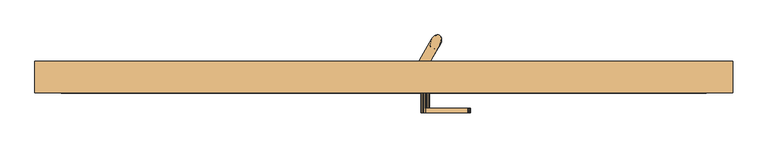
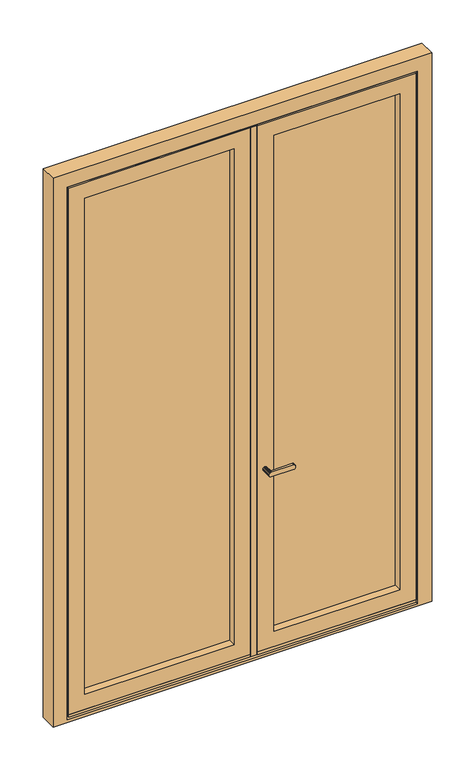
"""IFC4 building model written with IfcOpenShell, lengths in millimetres: door geometry, SAS ENTREE RDC 2x90."""

from ifc_helpers import new_model, si_unit, frame, origin, place, context, project, spatial, polyline, outline, extrude, faceted_brep, source, transform, mapped, element, save


def door_823e616a(model_context):
    return source(origin(), model_context, "Body", "SolidModel", [
        extrude(outline(polyline([(972.0, 551.0), (153.0, 551.0), (153.0, 589.0), (972.0, 589.0), (972.0, 551.0)])), frame((0.0, 0.0, 260.0), z_axis=(0.0, 0.0, 1.0), x_axis=(1.0, 0.0, 0.0)), (0.0, 0.0, 1.0), 2797.0),
        faceted_brep([(1069.5, 518.3, 3138.5), (1069.5, 591.7, 3138.5), (1069.5, 591.7, 178.5), (1069.5, 518.3, 178.5), (1049.0, 591.7, 3159.0), (1049.0, 591.7, 158.0), (1949.0, 591.7, 158.0), (1949.0, 591.7, 3159.0), (1928.5, 591.7, 3138.5), (1928.5, 591.7, 178.5), (1928.5, 518.3, 178.5), (1928.5, 518.3, 3138.5), (1917.0, 518.3, 3127.0), (1917.0, 518.3, 190.0), (1081.0, 518.3, 190.0), (1081.0, 518.3, 3127.0), (1081.0, 510.0, 3127.0), (1081.0, 510.0, 190.0), (1917.0, 510.0, 190.0), (1917.0, 510.0, 3127.0), (1831.9999695, 510.0, 3041.9999695), (1831.9999695, 510.0, 275.0000305), (1166.0000305, 510.0, 275.0000305), (1166.0000305, 510.0, 3041.9999695), (1166.0000305, 551.0, 3041.9999695), (1166.0000305, 551.0, 275.0000305), (1831.9999695, 551.0, 275.0000305), (1847.0, 551.0, 3057.0), (1847.0, 551.0, 260.0), (1151.0, 551.0, 260.0), (1151.0, 551.0, 3057.0), (1831.9999695, 551.0, 3041.9999695), (1151.0, 589.0, 3057.0), (1151.0, 589.0, 260.0), (1847.0, 589.0, 260.0), (1847.0, 589.0, 3057.0), (1830.0, 589.0, 3040.0), (1830.0, 589.0, 277.0), (1168.0, 589.0, 277.0), (1168.0, 589.0, 3040.0), (1168.0, 600.0, 3040.0), (1168.0, 600.0, 277.0), (1830.0, 600.0, 277.0), (1949.0, 600.0, 3159.0), (1949.0, 600.0, 158.0), (1049.0, 600.0, 158.0), (1049.0, 600.0, 3159.0), (1830.0, 600.0, 3040.0)], [[[0, 1, 2, 3]], [[4, 5, 6, 7], [8, 9, 2, 1]], [[3, 2, 9, 10]], [[0, 3, 10, 11], [12, 13, 14, 15]], [[16, 15, 14, 17]], [[17, 14, 13, 18]], [[16, 17, 18, 19], [20, 21, 22, 23]], [[24, 23, 22, 25]], [[25, 22, 21, 26]], [[27, 28, 29, 30], [24, 25, 26, 31]], [[32, 30, 29, 33]], [[33, 29, 28, 34]], [[32, 33, 34, 35], [36, 37, 38, 39]], [[40, 39, 38, 41]], [[41, 38, 37, 42]], [[43, 44, 45, 46], [40, 41, 42, 47]], [[4, 46, 45, 5]], [[5, 45, 44, 6]], [[10, 9, 8, 11]], [[18, 13, 12, 19]], [[26, 21, 20, 31]], [[34, 28, 27, 35]], [[42, 37, 36, 47]], [[6, 44, 43, 7]], [[11, 8, 1, 0]], [[19, 12, 15, 16]], [[31, 20, 23, 24]], [[35, 27, 30, 32]], [[47, 36, 39, 40]], [[7, 43, 46, 4]]]),
        extrude(outline(polyline([(1081.0, 510.0), (1081.0, 518.3), (1917.0, 518.3), (1917.0, 510.0), (1081.0, 510.0)])), frame((0.0, 0.0, 176.0), z_axis=(0.0, 0.0, 1.0), x_axis=(1.0, 0.0, 0.0)), (0.0, 0.0, 1.0), 14.0),
        faceted_brep([(1110.5227579, 510.0, 1208.4772421), (1113.0056846, 510.0, 1210.3824588), (1115.897114, 510.0, 1211.5801281), (1119.0, 510.0, 1211.9886308), (1122.102886, 510.0, 1211.5801281), (1124.9943154, 510.0, 1210.3824588), (1127.4772421, 510.0, 1208.4772421), (1129.3824588, 510.0, 1205.9943154), (1130.5801281, 510.0, 1203.102886), (1130.9886308, 510.0, 1200.0), (1130.5801281, 510.0, 1196.897114), (1129.3824588, 510.0, 1194.0056846), (1127.4772421, 510.0, 1191.5227579), (1124.9943154, 510.0, 1189.6175412), (1122.102886, 510.0, 1188.4198719), (1119.0, 510.0, 1188.0113692), (1115.897114, 510.0, 1188.4198719), (1113.0056846, 510.0, 1189.6175412), (1110.5227579, 510.0, 1191.5227579), (1108.6175412, 510.0, 1194.0056846), (1107.4198719, 510.0, 1196.897114), (1107.0113692, 510.0, 1200.0), (1107.4198719, 510.0, 1203.102886), (1108.6175412, 510.0, 1205.9943154), (1122.102886, 466.5001175, 1188.4198719), (1119.0, 466.5001175, 1188.0113692), (1124.9943154, 466.5001175, 1189.6175412), (1129.3824588, 466.5001175, 1194.0056846), (1127.4772421, 466.5001175, 1191.5227579), (1130.5801281, 466.5001175, 1196.897114), (1130.9886308, 466.5001175, 1200.0), (1130.5801281, 466.5001175, 1203.102886), (1129.3824588, 466.5001175, 1205.9943154), (1124.9943154, 466.5001175, 1210.3824588), (1127.4772421, 466.5001175, 1208.4772421), (1122.102886, 466.5001175, 1211.5801281), (1119.0, 466.5001175, 1211.9886308), (1115.897114, 454.0000305, 1211.5801281), (1119.0, 454.0000305, 1211.9886308), (1113.0056846, 454.0000305, 1210.3824588), (1108.6175412, 454.0000305, 1205.9943154), (1110.5227579, 454.0000305, 1208.4772421), (1107.4198719, 454.0000305, 1203.102886), (1107.0113692, 454.0000305, 1200.0), (1107.4198719, 454.0000305, 1196.897114), (1108.6175412, 454.0000305, 1194.0056846), (1113.0056846, 454.0000305, 1189.6175412), (1110.5227579, 454.0000305, 1191.5227579), (1115.897114, 454.0000305, 1188.4198719), (1119.0, 454.0000305, 1188.0113692), (1240.6617926, 454.0000305, 1188.0113692), (1242.2039971, 454.0000305, 1188.2417274), (1243.6869356, 454.0000305, 1188.9239494), (1245.0536195, 454.0000305, 1190.0318178), (1246.2515279, 454.0000305, 1191.5227579), (1247.234626, 454.0000305, 1193.3394736), (1247.9651338, 454.0000305, 1195.4121496), (1248.4149782, 454.0000305, 1197.6611342), (1248.5668721, 454.0000305, 1200.0), (1248.4149782, 454.0000305, 1202.3388658), (1247.9651338, 454.0000305, 1204.5878504), (1247.234626, 454.0000305, 1206.6605264), (1246.2515279, 454.0000305, 1208.4772421), (1245.0536195, 454.0000305, 1209.9681822), (1243.6869356, 454.0000305, 1211.0760506), (1242.2039971, 454.0000305, 1211.7582726), (1240.6617926, 454.0000305, 1211.9886308), (1247.9651338, 466.5001175, 1195.4121496), (1247.234626, 466.5001175, 1193.3394736), (1246.2515279, 466.5001175, 1191.5227579), (1245.0536195, 466.5001175, 1190.0318178), (1243.6869356, 466.5001175, 1188.9239494), (1242.2039971, 466.5001175, 1188.2417274), (1240.6617926, 466.5001175, 1188.0113692), (1240.6617926, 466.5001175, 1211.9886308), (1242.2039971, 466.5001175, 1211.7582726), (1243.6869356, 466.5001175, 1211.0760506), (1245.0536195, 466.5001175, 1209.9681822), (1246.2515279, 466.5001175, 1208.4772421), (1247.234626, 466.5001175, 1206.6605264), (1247.9651338, 466.5001175, 1204.5878504), (1248.4149782, 466.5001175, 1202.3388658), (1248.5668721, 466.5001175, 1200.0), (1248.4149782, 466.5001175, 1197.6611342), (1240.6617926, 461.0756599, 1188.0113692), (1244.3882212, 460.2500761, 1189.4269715), (1246.7725017, 460.2500743, 1192.3944932), (1248.226482, 460.250074, 1196.5198842), (1247.6334503, 460.250074, 1205.6514014), (1248.528807, 460.2500741, 1201.1750915), (1242.9565161, 460.250074, 1211.4724044), (1245.676722, 460.250074, 1209.2673369), (1240.6617926, 460.250074, 1211.9886308)], [[[0, 1, 2, 3, 4, 5, 6, 7, 8, 9, 10, 11, 12, 13, 14, 15, 16, 17, 18, 19, 20, 21, 22, 23]], [[14, 24, 25, 15]], [[13, 26, 24, 14]], [[27, 28, 12, 11]], [[13, 12, 28, 26]], [[29, 27, 11, 10]], [[30, 29, 10, 9]], [[8, 31, 30, 9]], [[7, 32, 31, 8]], [[33, 34, 6, 5]], [[7, 6, 34, 32]], [[35, 33, 5, 4]], [[36, 35, 4, 3]], [[2, 37, 38, 36, 3]], [[1, 39, 37, 2]], [[23, 40, 41, 0]], [[1, 0, 41, 39]], [[22, 42, 40, 23]], [[21, 43, 42, 22]], [[20, 44, 43, 21]], [[19, 45, 44, 20]], [[17, 46, 47, 18]], [[19, 18, 47, 45]], [[16, 48, 46, 17]], [[25, 49, 48, 16, 15]], [[45, 47, 46, 48, 49, 50, 51, 52, 53, 54, 55, 56, 57, 58, 59, 60, 61, 62, 63, 64, 65, 66, 38, 37, 39, 41, 40, 42, 43, 44]], [[67, 68, 69, 70, 71, 72, 73, 25, 24, 26, 28, 27, 29, 30, 31, 32, 34, 33, 35, 36, 74, 75, 76, 77, 78, 79, 80, 81, 82, 83]], [[49, 25, 73, 84, 50]], [[85, 52, 51]], [[53, 85, 86]], [[67, 87, 68]], [[69, 86, 70]], [[80, 88, 81]], [[72, 85, 84]], [[57, 56, 87]], [[60, 59, 89]], [[86, 87, 56]], [[76, 90, 91, 77]], [[86, 55, 54]], [[79, 78, 91, 88]], [[58, 87, 89]], [[70, 85, 71]], [[84, 73, 72]], [[50, 84, 51]], [[85, 72, 71]], [[58, 57, 87]], [[52, 85, 53]], [[86, 56, 55]], [[86, 54, 53]], [[68, 86, 69]], [[86, 85, 70]], [[74, 92, 75]], [[92, 66, 65]], [[62, 61, 88, 91]], [[87, 86, 68]], [[85, 51, 84]], [[87, 67, 83]], [[91, 90, 64, 63]], [[89, 87, 83]], [[61, 60, 88]], [[89, 88, 60]], [[90, 65, 64]], [[63, 62, 91]], [[89, 83, 82]], [[81, 89, 82]], [[88, 89, 81]], [[79, 88, 80]], [[90, 92, 65]], [[78, 77, 91]], [[75, 90, 76]], [[75, 92, 90]], [[59, 58, 89]], [[38, 66, 92, 74, 36]]]),
        faceted_brep([(1164.2287431, 669.5957857, 3103.5), (1162.3389959, 672.5301259, 3103.5), (1159.7797595, 674.6325784, 3103.5), (1156.6793647, 675.7977178, 3103.5), (1153.1932781, 675.9671188, 3103.5), (1149.4963068, 675.1322872, 3103.5), (1145.7738322, 673.3350848, 3103.5), (1142.212515, 670.6656309, 3103.5), (1138.9909342, 667.257783, 3103.5), (1136.2706335, 663.2824248, 3103.5), (1134.1880202, 658.9388975, 3103.5), (1132.847525, 654.4450036, 3103.5), (1132.3163661, 650.0260857, 3103.5), (1132.6211779, 645.9037268, 3103.5), (1133.7466761, 642.2846393, 3103.5), (1135.6364232, 639.3502991, 3103.5), (1138.1956596, 637.2478466, 3103.5), (1141.2960545, 636.0827073, 3103.5), (1144.7821411, 635.9133062, 3103.5), (1148.4791124, 636.7481378, 3103.5), (1152.2015869, 638.5453402, 3103.5), (1155.7629042, 641.2147941, 3103.5), (1158.9844849, 644.622642, 3103.5), (1161.7047856, 648.5980002, 3103.5), (1163.787399, 652.9415275, 3103.5), (1165.1278941, 657.4354214, 3103.5), (1165.6590531, 661.8543393, 3103.5), (1165.3542412, 665.9766982, 3103.5), (1141.2960545, 636.0827073, 213.5), (1138.1956596, 637.2478466, 213.5), (1135.6364232, 639.3502991, 213.5), (1133.7466761, 642.2846393, 213.5), (1132.6211779, 645.9037268, 213.5), (1132.3163661, 650.0260857, 213.5), (1132.847525, 654.4450036, 213.5), (1134.1880202, 658.9388975, 213.5), (1136.2706335, 663.2824248, 213.5), (1138.9909342, 667.257783, 213.5), (1142.212515, 670.6656309, 213.5), (1145.7738322, 673.3350848, 213.5), (1149.4963068, 675.1322872, 213.5), (1153.1932781, 675.9671188, 213.5), (1156.6793647, 675.7977178, 213.5), (1159.7797595, 674.6325784, 213.5), (1162.3389959, 672.5301259, 213.5), (1164.2287431, 669.5957857, 213.5), (1165.3542412, 665.9766982, 213.5), (1165.6590531, 661.8543393, 213.5), (1165.1278941, 657.4354214, 213.5), (1163.787399, 652.9415275, 213.5), (1161.7047856, 648.5980002, 213.5), (1158.9844849, 644.622642, 213.5), (1155.7629042, 641.2147941, 213.5), (1152.2015869, 638.5453402, 213.5), (1148.4791124, 636.7481378, 213.5), (1144.7821411, 635.9133062, 213.5), (1159.5505327, 674.7609343, 3039.7612202), (1164.8914925, 667.8611962, 306.3237695), (1161.7047856, 648.5980002, 304.783489), (1151.359707, 675.6737836, 3010.676228), (1151.3597056, 675.6737832, 297.4293988), (1158.2880417, 675.3371113, 368.0172447), (1146.3270491, 673.6633417, 369.3240477), (1152.7588212, 675.9198052, 446.6944318), (1161.1357621, 673.6929778, 2948.98274), (1165.6667239, 662.4975723, 2947.6759605), (1164.4102335, 669.1834463, 2875.4794892), (1158.6776836, 675.18144, 2387.972511), (1146.9017358, 673.9813242, 2433.366327), (1158.6178636, 675.2065607, 2478.1094389), (1161.7047856, 648.5980002, 3012.216511), (1136.2706335, 663.2824248, 3012.2165139), (1136.2706335, 663.2824248, 304.7834917), (1148.8898033, 674.90456, 2922.0327645), (1161.7047856, 648.5980002, 396.066978), (1165.4602757, 665.3375828, 394.9672499), (1160.0055327, 674.4982397, 277.2387736), (1149.4561806, 675.1179974, 1435.6433105), (1136.2706335, 663.2824248, 1400.1853585), (1136.2706335, 663.2824248, 1479.816978), (1136.2706335, 663.2824248, 1491.4688445), (1157.9396675, 675.4609039, 526.5775533), (1162.8081191, 671.9617113, 459.8390978), (1147.6664737, 674.3686784, 2789.8337304), (1157.5116475, 675.5941609, 2731.5722903), (1146.7394891, 673.8939051, 2701.4632106), (1164.8914918, 667.8611986, 3019.5705949), (1136.2706335, 663.2824248, 943.7679112), (1147.4014936, 674.2390529, 991.9541054), (1148.151651, 674.5934845, 898.1262183), (1136.2706335, 663.2824248, 2920.9330222), (1136.2706335, 663.2824248, 2746.1339598), (1136.2706335, 663.2824248, 2829.649533), (1136.2706335, 663.2824248, 2833.533491), (1163.4334472, 671.0659174, 753.748835), (1165.6399826, 663.5037097, 806.8427277), (1165.6350242, 661.2518328, 715.5592395), (1160.242194, 674.3485788, 2283.8905959), (1162.5130902, 672.3281065, 2186.2171541), (1148.2373078, 674.6314948, 2242.6546305), (1148.8405944, 674.8849811, 1613.8704529), (1160.8658555, 673.9071638, 1569.1585234), (1149.2516076, 675.0434335, 1517.9321883), (1165.606449, 664.0285127, 2607.3749737), (1159.0807139, 675.0001544, 2567.4509478), (1159.5316125, 674.771178, 2656.7924568), (1160.8920938, 673.8869902, 938.4578574), (1159.7797596, 674.6325784, 1035.0514496), (1165.6658448, 662.2320884, 1881.8538044), (1161.7047856, 648.5980002, 1926.524533), (1161.7047856, 648.5980002, 1852.7188463), (1161.7047856, 648.5980002, 1837.183022), (1148.0919155, 674.5666791, 1085.9473652), (1150.7306536, 675.517869, 1168.8726905), (1160.9683453, 673.8275832, 1125.837811), (1161.0582315, 673.7560369, 1300.8775569), (1165.6579167, 663.0537925, 1256.4632408), (1160.9145992, 673.8695777, 1212.7139165), (1160.8658556, 673.9071638, 1658.5823811), (1160.242194, 674.3485788, 1747.8415416), (1165.6457586, 663.3830403, 1705.6035919), (1165.6667916, 662.4091556, 2149.8783316), (1161.7047856, 648.5980002, 2194.5490659), (1161.7047856, 648.5980002, 2120.7433801), (1161.7047856, 648.5980002, 2105.2075549), (1147.1043514, 674.0879095, 1899.8226875), (1146.892015, 673.9761385, 1808.0481216), (1136.2706335, 663.2824248, 1852.7188452), (1147.4657023, 674.2709086, 2612.1217017), (1165.6635215, 662.8128215, 1527.5583067), (1161.7047856, 648.5980002, 1569.158489), (1161.7047856, 648.5980002, 1491.4688485), (1161.7047856, 648.5980002, 1479.816978), (1159.3249434, 674.879689, 1844.8045559), (1165.6001313, 664.1083165, 1797.4267243), (1146.8951268, 673.9777992, 2522.7801928), (1136.2706335, 663.2824248, 2478.1094254), (1156.643048, 675.8050118, 2868.0801076), (1161.0013131, 673.8015344, 2802.6217509), (1159.9622567, 674.5246154, 1475.3268617), (1136.2706335, 663.2824248, 852.4844195), (1161.7047856, 648.5980002, 1301.133956), (1161.7047856, 648.5980002, 1217.6183797), (1161.7047856, 648.5980002, 1211.7924451), (1147.3907955, 674.2337175, 1718.7066128), (1136.2706335, 663.2824248, 1763.3773338), (1165.6424046, 663.4549077, 2418.8738478), (1165.6411091, 663.481305, 2327.1169999), (1148.6175468, 674.7941617, 1263.2601666), (1136.2706335, 663.2824248, 1217.618375), (1136.2706335, 663.2824248, 1301.133956), (1136.2706335, 663.2824248, 1308.9018668), (1161.7047856, 648.5980002, 2373.2320879), (1136.2706335, 663.2824248, 1582.7523306), (1136.2706335, 663.2824248, 1658.5), (1136.2706335, 663.2824248, 1674.0358223), (1165.6177046, 663.8747832, 1077.7802226), (1165.6548964, 663.1502613, 1167.1147796), (1165.6416963, 663.4694262, 1349.0545448), (1165.5889892, 664.240021, 2510.1573349), (1161.7047856, 648.5980002, 2464.5155769), (1146.0975381, 673.5298181, 2076.0726483), (1147.7553179, 674.4110552, 1991.6458261), (1136.2706335, 663.2824248, 2031.4018682), (1162.2771184, 672.5995764, 682.8588012), (1161.7047856, 648.5980002, 578.633956), (1165.5907742, 664.219614, 532.9922607), (1165.654249, 663.1692553, 621.3637247), (1160.0238637, 674.4869765, 1390.4755053), (1165.5716901, 664.4263296, 1441.7482187), (1165.6141573, 660.907579, 460.8624964), (1161.7047856, 648.5980002, 487.350467), (1146.6692217, 673.8554716, 511.4648929), (1143.0393531, 671.3765494, 453.7451278), (1160.7289495, 674.0102415, 603.806908), (1161.7047856, 648.5980002, 669.9174451), (1159.7797594, 674.6325785, 841.8642654), (1165.6627677, 662.8535427, 898.126215), (1149.6352708, 675.1809238, 659.1547405), (1144.5604194, 672.5368909, 806.8427306), (1146.3650685, 673.6850987, 2856.6324745), (1150.3201144, 675.4012707, 583.1880996), (1136.2706335, 663.2824248, 2656.7924484), (1136.2706335, 663.2824248, 2738.366044), (1165.5793103, 664.3466495, 2699.940621), (1165.3048978, 658.3587256, 2866.1656853), (1165.6644733, 662.7539259, 2807.3986574), (1136.2706335, 663.2824248, 2567.4509369), (1136.2706335, 663.2824248, 2647.0825549), (1136.2706335, 663.2824248, 2388.767914), (1136.2706335, 663.2824248, 2464.5155769), (1147.7487472, 674.4079398, 2334.4675158), (1136.2706335, 663.2824248, 2210.0848911), (1136.2706335, 663.2824248, 2283.8905769), (1136.2706335, 663.2824248, 2299.4264025), (1161.7047856, 648.5980002, 2388.7679138), (1161.7047856, 648.5980002, 2555.7990659), (1161.7047856, 648.5980002, 2478.1094232), (1161.7047856, 648.5980002, 2738.366044), (1161.7047856, 648.5980002, 2656.7924475), (1161.7047856, 648.5980002, 2647.0825549), (1165.6079117, 664.0094265, 2235.3144708), (1161.7047856, 648.5980002, 2283.8905769), (1162.97877, 671.7345832, 2121.0154935), (1136.2706335, 663.2824248, 578.6339556), (1144.315966, 672.3627096, 2165.4141571), (1136.2706335, 663.2824248, 2120.7433796), (1136.2706335, 663.2824248, 2194.5490659), (1164.7270112, 668.3594205, 2060.5368228), (1161.7047856, 648.5980002, 2031.4018707), (1161.7047856, 648.5980002, 2015.866044), (1165.6288113, 663.7039869, 1971.1953135), (1157.0289094, 675.7208451, 2041.9850456), (1136.2706335, 663.2824248, 2555.7990659), (1161.7047856, 648.5980002, 2210.0848951), (1161.7047856, 648.5980002, 2299.4264044), (1161.7047856, 648.5980002, 1033.1094231), (1165.6548734, 663.1509445, 988.4387133), (1161.7047856, 648.5980002, 2567.4509325), (1136.2706335, 663.2824248, 396.0669778), (1161.7047856, 648.5980002, 2829.649533), (1161.7047856, 648.5980002, 2920.933022), (1161.7047856, 648.5980002, 2746.1339569), (1161.7047856, 648.5980002, 761.2009341), (1155.3649733, 675.9831179, 2138.6482318), (1143.791106, 671.9730561, 719.6075288), (1136.2706335, 663.2824248, 669.9174473), (1153.525878, 675.9937381, 754.3114731), (1136.2706335, 663.2824248, 761.2009334), (1161.7047856, 648.5980002, 852.4844231), (1161.7047856, 648.5980002, 943.7679121), (1136.2706335, 663.2824248, 1035.0514029), (1136.2706335, 663.2824248, 1126.334889), (1136.2706335, 663.2824248, 1211.7924451), (1147.2249952, 674.1500152, 1354.5436536), (1136.2706335, 663.2824248, 1390.475467), (1161.7047856, 648.5980002, 1122.4509341), (1161.7047856, 648.5980002, 1035.0514006), (1136.2706335, 663.2824248, 1122.4509341), (1136.2706335, 663.2824248, 1033.1094231), (1161.7047856, 648.5980002, 1126.3348901), (1161.7047856, 648.5980002, 1400.1853589), (1161.7047856, 648.5980002, 1390.475467), (1165.6552285, 663.1403125, 1613.8292772), (1161.7047856, 648.5980002, 1308.9018693), (1161.7047856, 648.5980002, 1658.5), (1161.7047856, 648.5980002, 1582.752338), (1161.7047856, 648.5980002, 1763.377337), (1161.7047856, 648.5980002, 1747.841511), (1136.2706335, 663.2824248, 1569.158489), (1161.7047856, 648.5980002, 1942.0603613), (1136.2706335, 663.2824248, 1747.841511), (1159.3025915, 674.891059, 1942.0603856), (1136.2706335, 663.2824248, 1837.183022), (1136.2706335, 663.2824248, 1942.0603567), (1136.2706335, 663.2824248, 2105.2075549), (1161.7047856, 648.5980002, 1674.0358276), (1136.2706335, 663.2824248, 2015.866044), (1136.2706335, 663.2824248, 1926.524533), (1136.2706335, 663.2824248, 487.3504639), (1136.2706335, 663.2824248, 2373.2320879), (1161.7047856, 648.5980002, 2833.5334917), (1138.4248864, 637.1194907, 3039.7612202), (1133.0839266, 644.0192288, 306.3237695), (1146.6157121, 636.2066414, 3010.676228), (1146.6157136, 636.2066418, 297.4293988), (1139.6873774, 636.5433137, 368.0172447), (1151.64837, 638.2170833, 369.3240477), (1145.2165979, 635.9606198, 446.6944318), (1136.839657, 638.1874472, 2948.98274), (1132.3086953, 649.3828527, 2947.6759605), (1133.5651856, 642.6969787, 2875.4794892), (1139.2977356, 636.698985, 2387.972511), (1151.0736833, 637.8991008, 2433.366327), (1139.3575556, 636.6738643, 2478.1094389), (1149.0856159, 636.975865, 2922.0327645), (1132.5151434, 646.5428422, 394.9672499), (1137.9698864, 637.3821853, 277.2387736), (1148.5192386, 636.7624276, 1435.6433105), (1140.0357516, 636.4195211, 526.5775533), (1135.1673001, 639.9187137, 459.8390978), (1150.3089454, 637.5117466, 2789.8337304), (1140.4637716, 636.2862641, 2731.5722903), (1151.23593, 637.9865199, 2701.4632106), (1133.0839274, 644.0192264, 3019.5705949), (1150.5739256, 637.6413721, 991.9541054), (1149.8237681, 637.2869405, 898.1262183), (1134.5419719, 640.8145076, 753.748835), (1132.3354365, 648.3767153, 806.8427277), (1132.3403949, 650.6285922, 715.5592395), (1137.7332252, 637.5318462, 2283.8905959), (1135.4623289, 639.5523186, 2186.2171541), (1149.7381113, 637.2489302, 2242.6546305), (1149.1348247, 636.9954439, 1613.8704529), (1137.1095636, 637.9732612, 1569.1585234), (1148.7238115, 636.8369915, 1517.9321883), (1132.3689701, 647.8519123, 2607.3749737), (1138.8947052, 636.8802706, 2567.4509478), (1138.4438066, 637.109247, 2656.7924568), (1137.0833253, 637.9934348, 938.4578574), (1138.1956596, 637.2478466, 1035.0514496), (1132.3095744, 649.6483366, 1881.8538044), (1149.8835036, 637.3137459, 1085.9473652), (1147.2447656, 636.362556, 1168.8726905), (1137.0070739, 638.0528418, 1125.837811), (1136.9171876, 638.1243881, 1300.8775569), (1132.3175024, 648.8266325, 1256.4632408), (1137.0608199, 638.0108473, 1212.7139165), (1137.1095635, 637.9732612, 1658.5823811), (1137.7332251, 637.5318462, 1747.8415416), (1132.3296605, 648.4973847, 1705.6035919), (1132.3086276, 649.4712695, 2149.8783316), (1150.8710677, 637.7925155, 1899.8226875), (1151.0834041, 637.9042865, 1808.0481216), (1150.5097169, 637.6095164, 2612.1217017), (1132.3118976, 649.0676035, 1527.5583067), (1138.6504758, 637.000736, 1844.8045559), (1132.3752878, 647.7721085, 1797.4267243), (1151.0802924, 637.9026258, 2522.7801928), (1141.3323712, 636.0754132, 2868.0801076), (1136.9741061, 638.0788906, 2802.6217509), (1138.0131624, 637.3558096, 1475.3268617), (1150.5846237, 637.6467075, 1718.7066128), (1132.3330145, 648.4255173, 2418.8738478), (1132.3343101, 648.39912, 2327.1169999), (1149.3578723, 637.0862633, 1263.2601666), (1132.3577146, 648.0056418, 1077.7802226), (1132.3205228, 648.7301637, 1167.1147796), (1132.3337228, 648.4109988, 1349.0545448), (1132.38643, 647.640404, 2510.1573349), (1151.8778811, 638.3506069, 2076.0726483), (1150.2201012, 637.4693698, 1991.6458261), (1135.6983007, 639.2808486, 682.8588012), (1132.3846449, 647.660811, 532.9922607), (1132.3211702, 648.7111697, 621.3637247), (1137.9515554, 637.3934485, 1390.4755053), (1132.4037291, 647.4540954, 1441.7482187), (1132.3612619, 650.972846, 460.8624964), (1151.3061975, 638.0249534, 511.4648929), (1154.936066, 640.5038756, 453.7451278), (1137.2464696, 637.8701835, 603.806908), (1138.1956597, 637.2478465, 841.8642654), (1132.3126514, 649.0268823, 898.126215), (1148.3401483, 636.6995012, 659.1547405), (1153.4149997, 639.3435341, 806.8427306), (1151.6103506, 638.1953263, 2856.6324745), (1147.6553047, 636.4791543, 583.1880996), (1132.3961088, 647.5337755, 2699.940621), (1132.6705214, 653.5216994, 2866.1656853), (1132.3109458, 649.1264991, 2807.3986574), (1150.2266719, 637.4724852, 2334.4675158), (1132.3675074, 647.8709985, 2235.3144708), (1134.9966491, 640.1458418, 2121.0154935), (1153.6594532, 639.5177154, 2165.4141571), (1133.2484079, 643.5210045, 2060.5368228), (1132.3466078, 648.1764381, 1971.1953135), (1140.9465097, 636.1595799, 2041.9850456), (1132.3205458, 648.7294805, 988.4387133), (1142.6104458, 635.8973071, 2138.6482318), (1154.1843131, 639.9073689, 719.6075288), (1144.4495412, 635.8866869, 754.3114731), (1150.750424, 637.7304098, 1354.5436536), (1132.3201906, 648.7401125, 1613.8292772), (1138.6728277, 636.989366, 1942.0603856)], [[[0, 1, 2, 3, 4, 5, 6, 7, 8, 9, 10, 11, 12, 13, 14, 15, 16, 17, 18, 19, 20, 21, 22, 23, 24, 25, 26, 27]], [[28, 29, 30, 31, 32, 33, 34, 35, 36, 37, 38, 39, 40, 41, 42, 43, 44, 45, 46, 47, 48, 49, 50, 51, 52, 53, 54, 55]], [[2, 1, 56]], [[57, 58, 48]], [[59, 7, 6]], [[5, 4, 59]], [[38, 60, 39]], [[61, 62, 63]], [[4, 3, 56]], [[64, 65, 66]], [[40, 60, 41]], [[67, 68, 69]], [[24, 23, 70]], [[58, 50, 49]], [[71, 9, 8]], [[37, 36, 72]], [[73, 59, 64]], [[60, 40, 39]], [[74, 58, 75]], [[45, 76, 57]], [[77, 78, 79, 80]], [[71, 8, 7]], [[63, 81, 82]], [[83, 84, 85]], [[25, 86, 26]], [[24, 70, 25]], [[87, 88, 89]], [[75, 58, 57]], [[72, 62, 60]], [[5, 59, 6]], [[90, 71, 73]], [[70, 65, 86]], [[42, 41, 76]], [[46, 57, 47]], [[83, 91, 92, 93]], [[94, 95, 96]], [[43, 42, 76]], [[97, 98, 99]], [[86, 27, 26]], [[100, 101, 102]], [[4, 56, 59]], [[64, 56, 86]], [[103, 104, 105]], [[46, 45, 57]], [[58, 49, 48]], [[76, 41, 60]], [[59, 71, 7]], [[45, 44, 76]], [[56, 1, 0]], [[75, 57, 61]], [[61, 76, 60]], [[27, 86, 0]], [[47, 57, 48]], [[37, 72, 38]], [[106, 88, 107]], [[0, 86, 56]], [[38, 72, 60]], [[73, 71, 59]], [[64, 86, 65]], [[61, 60, 62]], [[25, 70, 86]], [[108, 109, 110, 111]], [[112, 113, 114]], [[115, 116, 117]], [[118, 119, 120]], [[121, 122, 123, 124]], [[125, 126, 127]], [[105, 104, 128]], [[129, 130, 131, 132]], [[133, 134, 119]], [[135, 68, 136]], [[137, 66, 138]], [[139, 101, 129]], [[89, 140, 87]], [[116, 141, 142, 143]], [[126, 144, 145]], [[146, 147, 67]], [[148, 149, 150, 151]], [[152, 147, 146]], [[134, 120, 119]], [[100, 153, 154, 155]], [[156, 114, 157]], [[116, 115, 158]], [[146, 159, 160]], [[161, 162, 163]], [[96, 164, 94]], [[165, 166, 167]], [[68, 135, 69]], [[104, 103, 159]], [[100, 144, 118]], [[168, 169, 158]], [[170, 171, 74]], [[172, 63, 173]], [[165, 171, 166]], [[167, 166, 174]], [[175, 167, 96]], [[166, 170, 82]], [[82, 81, 166]], [[176, 177, 95]], [[178, 164, 174]], [[176, 179, 89]], [[180, 93, 90]], [[181, 178, 174]], [[85, 182, 183, 91]], [[105, 184, 103]], [[66, 185, 186]], [[91, 83, 85]], [[180, 137, 83]], [[137, 138, 83]], [[187, 128, 135]], [[128, 187, 188, 182]], [[85, 84, 105]], [[85, 128, 182]], [[128, 85, 105]], [[68, 189, 190, 136]], [[69, 135, 104]], [[189, 68, 191]], [[67, 191, 68]], [[99, 192, 193, 194]], [[191, 99, 194]], [[67, 97, 191]], [[146, 160, 195, 152]], [[103, 196, 159]], [[159, 196, 197, 160]], [[67, 69, 146]], [[184, 198, 199, 200]], [[103, 184, 200]], [[159, 146, 69]], [[97, 67, 147]], [[97, 147, 201]], [[147, 202, 201]], [[97, 99, 191]], [[121, 203, 98]], [[181, 204, 178]], [[205, 206, 207, 192]], [[208, 124, 209, 210]], [[122, 121, 201]], [[208, 211, 212]], [[135, 136, 213, 187]], [[128, 104, 135]], [[159, 69, 104]], [[201, 202, 214, 122]], [[147, 152, 215, 202]], [[201, 121, 98]], [[216, 217, 156]], [[157, 116, 143]], [[121, 124, 208]], [[73, 64, 137]], [[138, 184, 84]], [[103, 200, 218, 196]], [[172, 81, 63]], [[219, 62, 72]], [[75, 61, 82]], [[62, 173, 63]], [[172, 181, 81]], [[186, 185, 220]], [[221, 65, 70]], [[198, 184, 186]], [[65, 185, 66]], [[186, 138, 66]], [[138, 186, 184]], [[186, 220, 222, 198]], [[96, 223, 175]], [[164, 167, 174]], [[175, 165, 167]], [[192, 99, 205]], [[224, 99, 98]], [[63, 82, 61]], [[170, 75, 82]], [[225, 178, 226]], [[81, 174, 166]], [[178, 227, 164]], [[174, 81, 181]], [[226, 178, 204]], [[140, 179, 228]], [[227, 178, 225]], [[176, 89, 106]], [[225, 228, 179]], [[88, 106, 89]], [[229, 223, 95]], [[216, 230, 217]], [[177, 229, 95]], [[229, 177, 230]], [[94, 227, 176]], [[107, 88, 112]], [[88, 231, 112]], [[107, 112, 114]], [[113, 232, 233, 149]], [[117, 148, 115]], [[232, 113, 112]], [[234, 151, 235, 78]], [[236, 156, 157]], [[156, 236, 237, 216]], [[106, 107, 217]], [[156, 217, 107]], [[106, 217, 177]], [[230, 177, 217]], [[176, 106, 177]], [[112, 231, 238, 232]], [[88, 87, 239, 231]], [[117, 157, 114]], [[157, 143, 240, 236]], [[158, 141, 116]], [[117, 116, 157]], [[169, 132, 241, 242]], [[158, 169, 242]], [[129, 243, 130]], [[102, 101, 139]], [[115, 168, 158]], [[234, 168, 115]], [[113, 117, 114]], [[114, 156, 107]], [[158, 242, 244, 141]], [[245, 243, 120]], [[243, 245, 246, 130]], [[243, 101, 118]], [[134, 111, 247, 248]], [[120, 134, 248]], [[243, 118, 120]], [[101, 100, 118]], [[144, 119, 118]], [[100, 102, 153]], [[102, 80, 249, 153]], [[211, 210, 250, 109]], [[111, 134, 108]], [[133, 108, 134]], [[126, 125, 133]], [[144, 155, 251, 145]], [[210, 211, 208]], [[133, 252, 108]], [[126, 145, 253, 127]], [[155, 144, 100]], [[133, 119, 126]], [[151, 234, 148]], [[168, 139, 169]], [[78, 77, 234]], [[144, 126, 119]], [[252, 133, 125]], [[252, 125, 162]], [[125, 254, 162]], [[148, 234, 115]], [[77, 139, 168]], [[212, 211, 252]], [[161, 163, 255, 206]], [[113, 148, 117]], [[148, 113, 149]], [[243, 129, 101]], [[169, 129, 132]], [[120, 248, 256, 245]], [[162, 254, 257, 163]], [[125, 127, 258, 254]], [[259, 204, 172]], [[181, 172, 204]], [[259, 172, 173]], [[108, 211, 109]], [[252, 211, 108]], [[161, 224, 212]], [[162, 161, 212]], [[224, 161, 205]], [[162, 212, 252]], [[203, 208, 212]], [[129, 169, 139]], [[102, 139, 77]], [[80, 102, 77]], [[234, 77, 168]], [[191, 194, 260, 189]], [[66, 137, 64]], [[180, 73, 137]], [[73, 180, 90]], [[180, 83, 93]], [[223, 96, 95]], [[164, 96, 167]], [[75, 170, 74]], [[171, 170, 166]], [[95, 94, 176]], [[94, 164, 227]], [[201, 98, 97]], [[224, 98, 203]], [[224, 203, 212]], [[208, 203, 121]], [[227, 179, 176]], [[179, 140, 89]], [[206, 205, 161]], [[224, 205, 99]], [[173, 219, 259]], [[219, 173, 62]], [[185, 221, 261, 220]], [[221, 185, 65]], [[43, 76, 44]], [[57, 76, 61]], [[2, 56, 3]], [[59, 56, 64]], [[105, 84, 184]], [[138, 84, 83]], [[227, 225, 179]], [[228, 225, 226]], [[16, 15, 262]], [[263, 72, 34]], [[264, 21, 20]], [[19, 18, 264]], [[52, 265, 53]], [[266, 267, 268]], [[18, 17, 262]], [[269, 270, 271]], [[54, 265, 55]], [[272, 273, 274]], [[10, 9, 71]], [[72, 36, 35]], [[70, 23, 22]], [[51, 50, 58]], [[275, 264, 269]], [[265, 54, 53]], [[219, 72, 276]], [[31, 277, 263]], [[278, 241, 132, 131]], [[70, 22, 21]], [[268, 279, 280]], [[281, 282, 283]], [[11, 284, 12]], [[10, 71, 11]], [[230, 285, 286]], [[276, 72, 263]], [[58, 267, 265]], [[19, 264, 20]], [[221, 70, 275]], [[71, 270, 284]], [[28, 55, 277]], [[32, 263, 33]], [[281, 222, 220, 261]], [[287, 288, 289]], [[29, 28, 277]], [[290, 291, 292]], [[284, 13, 12]], [[293, 294, 295]], [[18, 262, 264]], [[269, 262, 284]], [[296, 297, 298]], [[32, 31, 263]], [[72, 35, 34]], [[277, 55, 265]], [[264, 70, 21]], [[31, 30, 277]], [[262, 15, 14]], [[276, 263, 266]], [[266, 277, 265]], [[13, 284, 14]], [[33, 263, 34]], [[51, 58, 52]], [[299, 285, 300]], [[14, 284, 262]], [[52, 58, 265]], [[275, 70, 264]], [[269, 284, 270]], [[266, 265, 267]], [[11, 71, 284]], [[301, 258, 127, 253]], [[302, 303, 304]], [[305, 306, 307]], [[308, 309, 310]], [[311, 207, 206, 255]], [[312, 313, 110]], [[298, 297, 314]], [[315, 249, 80, 79]], [[316, 317, 309]], [[318, 273, 197]], [[319, 271, 320]], [[321, 294, 315]], [[286, 229, 230]], [[306, 150, 149, 233]], [[313, 322, 247]], [[323, 324, 272]], [[325, 142, 141, 244]], [[260, 324, 323]], [[317, 310, 309]], [[293, 246, 245, 256]], [[326, 304, 327]], [[306, 305, 328]], [[323, 329, 190]], [[330, 331, 209]], [[289, 332, 287]], [[204, 333, 334]], [[273, 318, 274]], [[297, 296, 329]], [[293, 322, 308]], [[335, 336, 328]], [[337, 259, 219]], [[338, 268, 339]], [[204, 259, 333]], [[334, 333, 340]], [[226, 334, 289]], [[333, 337, 280]], [[280, 279, 333]], [[341, 342, 288]], [[343, 332, 340]], [[341, 344, 286]], [[345, 261, 221]], [[346, 343, 340]], [[283, 199, 198, 222]], [[298, 347, 296]], [[271, 348, 349]], [[222, 281, 283]], [[345, 319, 281]], [[319, 320, 281]], [[218, 314, 318]], [[314, 218, 200, 199]], [[283, 282, 298]], [[283, 314, 199]], [[314, 283, 298]], [[273, 195, 160, 197]], [[274, 318, 297]], [[195, 273, 350]], [[272, 350, 273]], [[292, 214, 202, 215]], [[350, 292, 215]], [[272, 290, 350]], [[323, 190, 189, 260]], [[296, 213, 329]], [[329, 213, 136, 190]], [[272, 274, 323]], [[347, 183, 182, 188]], [[296, 347, 188]], [[329, 323, 274]], [[290, 272, 324]], [[290, 324, 351]], [[324, 193, 351]], [[290, 292, 350]], [[311, 352, 291]], [[346, 165, 343]], [[353, 123, 122, 214]], [[354, 255, 163, 257]], [[207, 311, 351]], [[354, 355, 356]], [[318, 197, 196, 218]], [[314, 297, 318]], [[329, 274, 297]], [[351, 193, 192, 207]], [[324, 260, 194, 193]], [[351, 311, 291]], [[239, 357, 326]], [[327, 306, 233]], [[311, 255, 354]], [[275, 269, 319]], [[320, 347, 282]], [[296, 188, 187, 213]], [[338, 279, 268]], [[74, 267, 58]], [[276, 266, 280]], [[267, 339, 268]], [[338, 346, 279]], [[349, 348, 92]], [[90, 270, 71]], [[183, 347, 349]], [[270, 348, 271]], [[349, 320, 271]], [[320, 349, 347]], [[349, 92, 91, 183]], [[289, 228, 226]], [[332, 334, 340]], [[226, 204, 334]], [[214, 292, 353]], [[358, 292, 291]], [[268, 280, 266]], [[337, 276, 280]], [[359, 343, 175]], [[279, 340, 333]], [[343, 360, 332]], [[340, 279, 346]], [[175, 343, 165]], [[229, 344, 223]], [[360, 343, 359]], [[341, 286, 299]], [[359, 223, 344]], [[285, 299, 286]], [[140, 228, 288]], [[239, 87, 357]], [[342, 140, 288]], [[140, 342, 87]], [[287, 360, 341]], [[300, 285, 302]], [[285, 237, 302]], [[300, 302, 304]], [[303, 240, 143, 142]], [[307, 325, 305]], [[240, 303, 302]], [[361, 244, 242, 241]], [[238, 326, 327]], [[326, 238, 231, 239]], [[299, 300, 357]], [[326, 357, 300]], [[299, 357, 342]], [[87, 342, 357]], [[341, 299, 342]], [[302, 237, 236, 240]], [[285, 230, 216, 237]], [[307, 327, 304]], [[327, 233, 232, 238]], [[328, 150, 306]], [[307, 306, 327]], [[336, 79, 78, 235]], [[328, 336, 235]], [[315, 362, 249]], [[295, 294, 321]], [[305, 335, 328]], [[361, 335, 305]], [[303, 307, 304]], [[304, 326, 300]], [[328, 235, 151, 150]], [[154, 362, 310]], [[362, 154, 153, 249]], [[362, 294, 308]], [[317, 253, 145, 251]], [[310, 317, 251]], [[362, 308, 310]], [[294, 293, 308]], [[322, 309, 308]], [[293, 295, 246]], [[295, 131, 130, 246]], [[355, 257, 254, 258]], [[253, 317, 301]], [[316, 301, 317]], [[313, 312, 316]], [[322, 256, 248, 247]], [[257, 355, 354]], [[316, 363, 301]], [[313, 247, 111, 110]], [[256, 322, 293]], [[316, 309, 313]], [[244, 361, 325]], [[335, 321, 336]], [[241, 278, 361]], [[322, 313, 309]], [[363, 316, 312]], [[363, 312, 331]], [[312, 250, 331]], [[325, 361, 305]], [[278, 321, 335]], [[356, 355, 363]], [[330, 209, 124, 123]], [[303, 325, 307]], [[325, 303, 142]], [[362, 315, 294]], [[336, 315, 79]], [[310, 251, 155, 154]], [[331, 250, 210, 209]], [[312, 110, 109, 250]], [[171, 165, 338]], [[346, 338, 165]], [[171, 338, 339]], [[301, 355, 258]], [[363, 355, 301]], [[330, 358, 356]], [[331, 330, 356]], [[358, 330, 353]], [[331, 356, 363]], [[352, 354, 356]], [[315, 336, 321]], [[295, 321, 278]], [[131, 295, 278]], [[361, 278, 335]], [[350, 215, 152, 195]], [[271, 319, 269]], [[345, 275, 319]], [[275, 345, 221]], [[345, 281, 261]], [[228, 289, 288]], [[332, 289, 334]], [[276, 337, 219]], [[259, 337, 333]], [[288, 287, 341]], [[287, 332, 360]], [[351, 291, 290]], [[358, 291, 352]], [[358, 352, 356]], [[354, 352, 311]], [[360, 344, 341]], [[344, 229, 286]], [[123, 353, 330]], [[358, 353, 292]], [[339, 74, 171]], [[74, 339, 267]], [[348, 90, 93, 92]], [[90, 348, 270]], [[29, 277, 30]], [[263, 277, 266]], [[16, 262, 17]], [[264, 262, 269]], [[298, 282, 347]], [[320, 282, 281]], [[360, 359, 344]], [[223, 359, 175]]]),
        faceted_brep([(1135.9561005, 600.0, 243.5), (1135.9561005, 604.0, 243.5), (1102.0438995, 604.0, 243.5), (1102.0438995, 600.0, 243.5), (1135.9561005, 604.0, 213.5), (1102.0438995, 604.0, 213.5), (1135.9561005, 600.0, 209.5), (1135.9561005, 604.0, 209.5), (1102.0438995, 600.0, 209.5), (1102.0438995, 604.0, 209.5), (1162.3389949, 672.5301271, 213.5), (1159.7797579, 674.6325794, 213.5), (1156.6793625, 675.7977182, 213.5), (1153.1932755, 675.9671186, 213.5), (1149.4963038, 675.1322861, 213.5), (1145.773829, 673.3350828, 213.5), (1142.2125117, 670.6656279, 213.5), (1138.9909311, 667.2577791, 213.5), (1136.2706308, 663.2824201, 213.5), (1161.7047856, 648.5980002, 213.5), (1163.7873991, 652.9415279, 213.5), (1165.1278943, 657.4354221, 213.5), (1165.6590531, 661.8543403, 213.5), (1165.354241, 665.9766994, 213.5), (1164.2287425, 669.5957871, 213.5), (1136.2706308, 663.2824201, 209.5), (1138.9909311, 667.2577791, 209.5), (1142.2125117, 670.6656279, 209.5), (1145.773829, 673.3350828, 209.5), (1149.4963038, 675.1322861, 209.5), (1153.1932755, 675.9671186, 209.5), (1156.6793625, 675.7977182, 209.5), (1159.7797579, 674.6325794, 209.5), (1162.3389949, 672.5301271, 209.5), (1164.2287425, 669.5957871, 209.5), (1165.354241, 665.9766994, 209.5), (1165.6590531, 661.8543403, 209.5), (1165.1278943, 657.4354221, 209.5), (1163.7873991, 652.9415279, 209.5), (1161.7047856, 648.5980002, 209.5), (1136.2706308, 663.2824201, 211.9099144), (1161.7047856, 648.5980002, 211.0900853), (1163.3743289, 671.1586471, 211.5), (1151.3597053, 675.6737832, 211.5), (1165.6445577, 661.4468941, 211.5)], [[[0, 1, 2, 3]], [[4, 5, 2, 1]], [[6, 7, 4, 1, 0]], [[8, 6, 0, 3]], [[9, 8, 3, 2, 5]], [[10, 11, 12, 13, 14, 15, 16, 17, 18, 5, 4, 19, 20, 21, 22, 23, 24]], [[6, 8, 9, 25, 26, 27, 28, 29, 30, 31, 32, 33, 34, 35, 36, 37, 38, 39, 7]], [[9, 5, 18, 40, 25]], [[7, 39, 41, 19, 4]], [[40, 18, 17]], [[26, 25, 40]], [[24, 42, 10]], [[43, 27, 40]], [[40, 27, 26]], [[43, 30, 29]], [[15, 43, 16]], [[13, 43, 14]], [[32, 31, 43]], [[41, 39, 38]], [[20, 19, 41]], [[28, 43, 29]], [[17, 16, 40]], [[31, 30, 43]], [[35, 34, 42]], [[28, 27, 43]], [[20, 41, 44]], [[15, 14, 43]], [[13, 12, 43]], [[40, 16, 43]], [[11, 43, 12]], [[32, 43, 42]], [[34, 33, 42]], [[35, 44, 36]], [[38, 37, 41]], [[37, 44, 41]], [[36, 44, 37]], [[44, 21, 20]], [[42, 43, 11]], [[32, 42, 33]], [[42, 11, 10]], [[23, 42, 24]], [[44, 42, 23]], [[35, 42, 44]], [[23, 22, 44]], [[22, 21, 44]]]),
        faceted_brep([(168.0000305, 551.0, 3041.9999695), (168.0000305, 510.0, 3041.9999695), (168.0000305, 510.0, 275.0000305), (168.0000305, 551.0, 275.0000305), (83.0, 510.0, 3127.0), (83.0, 510.0, 190.0), (1042.0, 510.0, 190.0), (1042.0, 510.0, 3127.0), (956.9999695, 510.0, 3041.9999695), (956.9999695, 510.0, 275.0000305), (956.9999695, 551.0, 275.0000305), (153.0, 551.0, 260.0), (153.0, 551.0, 3057.0), (972.0, 551.0, 3057.0), (972.0, 551.0, 260.0), (956.9999695, 551.0, 3041.9999695), (153.0, 589.0, 3057.0), (153.0, 589.0, 260.0), (972.0, 589.0, 260.0), (972.0, 589.0, 3057.0), (170.0, 589.0, 277.0), (170.0, 589.0, 3040.0), (955.0, 589.0, 3040.0), (955.0, 589.0, 277.0), (170.0, 600.0, 3040.0), (170.0, 600.0, 277.0), (955.0, 600.0, 277.0), (51.0, 600.0, 158.0), (51.0, 600.0, 3159.0), (1042.0, 600.0, 3159.0), (1042.0, 600.0, 158.0), (955.0, 600.0, 3040.0), (51.0, 591.7, 3159.0), (51.0, 591.7, 158.0), (1042.0, 591.7, 158.0), (1042.0, 591.7, 178.5), (71.5, 591.7, 178.5), (71.5, 591.7, 3138.5), (1042.0, 591.7, 3138.5), (1042.0, 591.7, 3159.0), (71.5, 518.3, 3138.5), (71.5, 518.3, 178.5), (1053.5, 591.7, 178.5), (1053.5, 518.3, 178.5), (1053.5, 518.3, 3138.5), (83.0, 518.3, 190.0), (83.0, 518.3, 3127.0), (1042.0, 518.3, 3127.0), (1042.0, 518.3, 190.0), (1053.5, 591.7, 3138.5)], [[[0, 1, 2, 3]], [[4, 5, 6, 7], [2, 1, 8, 9]], [[3, 2, 9, 10]], [[11, 12, 13, 14], [0, 3, 10, 15]], [[16, 12, 11, 17]], [[17, 11, 14, 18]], [[16, 17, 18, 19], [20, 21, 22, 23]], [[24, 21, 20, 25]], [[25, 20, 23, 26]], [[27, 28, 29, 30], [24, 25, 26, 31]], [[32, 28, 27, 33]], [[33, 27, 30, 34]], [[32, 33, 34, 35, 36, 37, 38, 39]], [[40, 37, 36, 41]], [[41, 36, 35, 42, 43]], [[40, 41, 43, 44], [45, 46, 47, 48]], [[4, 46, 45, 5]], [[5, 45, 48, 6]], [[10, 9, 8, 15]], [[18, 14, 13, 19]], [[26, 23, 22, 31]], [[43, 42, 49, 44]], [[1, 0, 15, 8]], [[12, 16, 19, 13]], [[21, 24, 31, 22]], [[28, 32, 39, 29]], [[37, 40, 44, 49, 38]], [[46, 4, 7, 47]], [[38, 35, 34, 30, 29, 39]], [[35, 38, 49, 42]], [[6, 48, 47, 7]]]),
        faceted_brep([(1102.0438995, 600.0, 3073.5), (1102.0438995, 604.0, 3073.5), (1135.9561005, 604.0, 3073.5), (1135.9561005, 600.0, 3073.5), (1102.0438995, 604.0, 3103.5), (1135.9561005, 604.0, 3103.5), (1135.9561005, 604.0, 3107.5), (1135.9561005, 600.0, 3107.5), (1102.0438995, 600.0, 3107.5), (1102.0438995, 604.0, 3107.5), (1136.2706335, 663.2824248, 3103.5), (1138.9909342, 667.257783, 3103.5), (1142.212515, 670.6656309, 3103.5), (1145.7738322, 673.3350848, 3103.5), (1149.4963068, 675.1322872, 3103.5), (1153.1932781, 675.9671188, 3103.5), (1156.6793647, 675.7977178, 3103.5), (1159.7797595, 674.6325784, 3103.5), (1162.3389959, 672.5301259, 3103.5), (1164.2287431, 669.5957857, 3103.5), (1165.3542412, 665.9766982, 3103.5), (1165.6590531, 661.8543393, 3103.5), (1165.1278941, 657.4354214, 3103.5), (1163.787399, 652.9415275, 3103.5), (1161.7047856, 648.5980002, 3103.5), (1162.3389959, 672.5301259, 3107.5), (1159.7797595, 674.6325784, 3107.5), (1156.6793647, 675.7977178, 3107.5), (1153.1932781, 675.9671188, 3107.5), (1149.4963068, 675.1322872, 3107.5), (1145.7738322, 673.3350848, 3107.5), (1142.212515, 670.6656309, 3107.5), (1138.9909342, 667.257783, 3107.5), (1136.2706335, 663.2824248, 3107.5), (1161.7047856, 648.5980002, 3107.5), (1163.787399, 652.9415275, 3107.5), (1165.1278941, 657.4354214, 3107.5), (1165.6590531, 661.8543393, 3107.5), (1165.3542412, 665.9766982, 3107.5), (1164.2287431, 669.5957857, 3107.5), (1136.2706335, 663.2824248, 3105.9099144), (1161.7047856, 648.5980002, 3105.0900854), (1163.3743297, 671.1586458, 3105.5), (1151.3597081, 675.6737838, 3105.5), (1165.6445577, 661.4468931, 3105.5)], [[[0, 1, 2, 3]], [[2, 1, 4, 5]], [[3, 2, 5, 6, 7]], [[0, 3, 7, 8]], [[1, 0, 8, 9, 4]], [[5, 4, 10, 11, 12, 13, 14, 15, 16, 17, 18, 19, 20, 21, 22, 23, 24]], [[25, 26, 27, 28, 29, 30, 31, 32, 33, 9, 8, 7, 6, 34, 35, 36, 37, 38, 39]], [[4, 9, 33, 40, 10]], [[5, 24, 41, 34, 6]], [[40, 33, 32]], [[11, 10, 40]], [[39, 42, 25]], [[43, 12, 40]], [[40, 12, 11]], [[43, 15, 14]], [[30, 43, 31]], [[28, 43, 29]], [[17, 16, 43]], [[41, 24, 23]], [[35, 34, 41]], [[13, 43, 14]], [[32, 31, 40]], [[16, 15, 43]], [[20, 19, 42]], [[13, 12, 43]], [[35, 41, 44]], [[30, 29, 43]], [[28, 27, 43]], [[40, 31, 43]], [[26, 43, 27]], [[17, 43, 42]], [[19, 18, 42]], [[20, 44, 21]], [[23, 22, 41]], [[22, 44, 41]], [[21, 44, 22]], [[44, 36, 35]], [[42, 43, 26]], [[17, 42, 18]], [[42, 26, 25]], [[38, 42, 39]], [[44, 42, 38]], [[20, 42, 44]], [[38, 37, 44]], [[37, 36, 44]]]),
        extrude(outline(polyline([(1151.0, 589.0), (1847.0, 589.0), (1847.0, 551.0), (1151.0, 551.0), (1151.0, 589.0)])), frame((0.0, 0.0, 260.0), z_axis=(0.0, 0.0, 1.0), x_axis=(1.0, 0.0, 0.0)), (0.0, 0.0, 1.0), 2797.0),
        extrude(outline(polyline([(1074.0, 510.0), (1042.0, 510.0), (1042.0, 518.3), (1074.0, 518.3), (1074.0, 510.0)])), frame((0.0, 0.0, 176.0160203), z_axis=(0.0, 0.0, 1.0), x_axis=(1.0, 0.0, 0.0)), (0.0, 0.0, 1.0), 2950.9839797),
        extrude(outline(polyline([(83.0, 510.0), (83.0, 518.3), (1042.0, 518.3), (1042.0, 510.0), (83.0, 510.0)])), frame((0.0, 0.0, 176.0160203), z_axis=(0.0, 0.0, 1.0), x_axis=(1.0, 0.0, 0.0)), (0.0, 0.0, 1.0), 13.9839797),
        faceted_brep([(1924.0, 510.0, 3134.0), (1924.0, 518.3, 3134.0), (1924.0, 518.3, 167.8651688), (1924.0, 510.0, 165.0072496), (76.0, 518.3, 3134.0), (76.0, 518.3, 167.8651688), (55.5, 518.3, 167.8651688), (55.5, 518.3, 3154.5), (1944.5, 518.3, 3154.5), (1944.5, 518.3, 167.8651688), (1944.5, 591.7, 3154.5), (1944.5, 591.7, 164.3), (1944.5, 532.0, 164.3), (1944.5, 532.0, 170.0), (1944.5, 524.5, 170.0), (1956.0, 599.9993365, 150.0), (1956.0, 591.7, 150.0), (1956.0, 591.7, 3166.0), (1956.0, 599.9993365, 3166.0), (2000.0, 599.9993365, 150.0), (44.0, 599.9993365, 3166.0), (44.0, 599.9993365, 150.0), (0.0, 599.9993365, 150.0), (0.0, 599.9993365, 3210.0), (2000.0, 599.9993365, 3210.0), (76.0, 510.0, 3134.0), (76.0, 510.0, 165.0072496), (44.0, 591.7, 3166.0), (44.0, 591.7, 150.0), (55.5, 591.7, 3154.5), (55.5, 524.5, 170.0), (55.5, 532.0, 170.0), (55.5, 532.0, 164.3), (55.5, 591.7, 164.3), (0.0, 510.0, 3210.0), (2000.0, 510.0, 3210.0), (2000.0, 510.0, 150.0), (0.0, 510.0, 150.0)], [[[0, 1, 2, 3]], [[1, 4, 5, 6, 7, 8, 9, 2]], [[8, 10, 11, 12, 13, 14, 9]], [[15, 16, 17, 18]], [[19, 15, 18, 20, 21, 22, 23, 24]], [[4, 25, 26, 5]], [[20, 27, 28, 21]], [[29, 7, 6, 30, 31, 32, 33]], [[25, 4, 1, 0]], [[27, 20, 18, 17]], [[23, 34, 35, 24]], [[8, 7, 29, 10]], [[19, 24, 35, 36]], [[34, 23, 22, 37]], [[35, 34, 37, 36], [25, 0, 3, 26]], [[16, 15, 19, 36, 37, 22, 21, 28]], [[14, 30, 6, 5, 26, 3, 2, 9]], [[27, 17, 16, 28], [11, 10, 29, 33]], [[32, 12, 11, 33]], [[12, 32, 31, 13]], [[13, 31, 30, 14]]]),
    ])


if __name__ == "__main__":
    model = new_model("IFC4")
    model_context = context("Model", 3, world=origin())
    ifc_project = project(units=[si_unit("LENGTHUNIT", "METRE", prefix="MILLI")], contexts=[model_context])
    site = spatial("IfcSite", under=ifc_project)
    building = spatial("IfcBuilding", under=site)
    placement = place(None, origin())
    door_shape = door_823e616a(model_context)
    element("IfcDoor", 1, ObjectType="SAS ENTREE RDC 2x90", at=placement, inside=building, context=model_context, shape_type="MappedRepresentation", body=[
        mapped(door_shape, transform((0.0, 0.0, 0.0), x_axis=(1.0, 0.0, 0.0), y_axis=(0.0, 1.0, 0.0), z_axis=(0.0, 0.0, 1.0))),
    ])
    save(model, "model.ifc")
